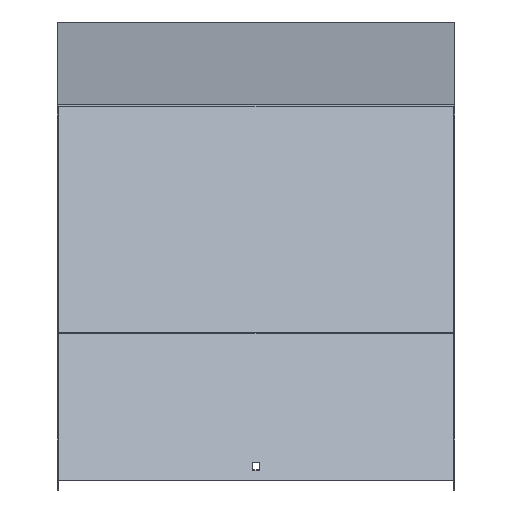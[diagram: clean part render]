
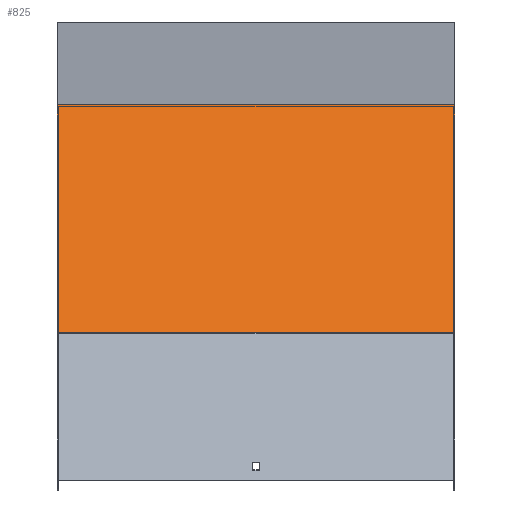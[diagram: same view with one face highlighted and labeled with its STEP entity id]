
A CAD part, top view. The second image highlights one B-rep face of the part: STEP entity #825.
In plain terms, the highlighted planar face has unit normal (0, 0.707, 0.707).
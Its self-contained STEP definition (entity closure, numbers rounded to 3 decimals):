
#1 = VECTOR ( 'NONE', #207, 1000. ) ;
#13 = ORIENTED_EDGE ( 'NONE', *, *, #920, .T. ) ;
#28 = ORIENTED_EDGE ( 'NONE', *, *, #908, .F. ) ;
#67 = CARTESIAN_POINT ( 'NONE',  ( 201.5, -68.421, 492.272 ) ) ;
#97 = DIRECTION ( 'NONE',  ( 0., -0.707, 0.707 ) ) ;
#116 = DIRECTION ( 'NONE',  ( 0., 0.707, -0.707 ) ) ;
#132 = DIRECTION ( 'NONE',  ( -1., 0., 0. ) ) ;
#145 = CARTESIAN_POINT ( 'NONE',  ( -201.5, -295.85, 719.701 ) ) ;
#162 = CARTESIAN_POINT ( 'NONE',  ( 201.5, -295.85, 719.701 ) ) ;
#197 = EDGE_CURVE ( 'NONE', #541, #879, #835, .T. ) ;
#207 = DIRECTION ( 'NONE',  ( 0., -0.707, 0.707 ) ) ;
#216 = VECTOR ( 'NONE', #132, 1000. ) ;
#234 = VERTEX_POINT ( 'NONE', #868 ) ;
#288 = LINE ( 'NONE', #591, #216 ) ;
#314 = VERTEX_POINT ( 'NONE', #632 ) ;
#339 = AXIS2_PLACEMENT_3D ( 'NONE', #860, #863, #116 ) ;
#455 = DIRECTION ( 'NONE',  ( -1., 0., 0. ) ) ;
#466 = CARTESIAN_POINT ( 'NONE',  ( 201.5, -295.85, 719.701 ) ) ;
#473 = VECTOR ( 'NONE', #455, 1000. ) ;
#535 = EDGE_CURVE ( 'NONE', #314, #879, #549, .T. ) ;
#541 = VERTEX_POINT ( 'NONE', #466 ) ;
#549 = LINE ( 'NONE', #699, #900 ) ;
#553 = PLANE ( 'NONE',  #339 ) ;
#572 = ORIENTED_EDGE ( 'NONE', *, *, #197, .F. ) ;
#591 = CARTESIAN_POINT ( 'NONE',  ( 201.5, -64.632, 488.483 ) ) ;
#632 = CARTESIAN_POINT ( 'NONE',  ( -201.5, -64.632, 488.483 ) ) ;
#699 = CARTESIAN_POINT ( 'NONE',  ( -201.5, -68.421, 492.272 ) ) ;
#791 = FACE_OUTER_BOUND ( 'NONE', #853, .T. ) ;
#825 = ADVANCED_FACE ( 'NONE', ( #791 ), #553, .F. ) ;
#835 = LINE ( 'NONE', #162, #473 ) ;
#853 = EDGE_LOOP ( 'NONE', ( #921, #572, #28, #13 ) ) ;
#860 = CARTESIAN_POINT ( 'NONE',  ( 201.5, -68.421, 492.272 ) ) ;
#863 = DIRECTION ( 'NONE',  ( 0., -0.707, -0.707 ) ) ;
#868 = CARTESIAN_POINT ( 'NONE',  ( 201.5, -64.632, 488.483 ) ) ;
#879 = VERTEX_POINT ( 'NONE', #145 ) ;
#887 = LINE ( 'NONE', #67, #1 ) ;
#900 = VECTOR ( 'NONE', #97, 1000. ) ;
#908 = EDGE_CURVE ( 'NONE', #234, #541, #887, .T. ) ;
#920 = EDGE_CURVE ( 'NONE', #234, #314, #288, .T. ) ;
#921 = ORIENTED_EDGE ( 'NONE', *, *, #535, .T. ) ;
